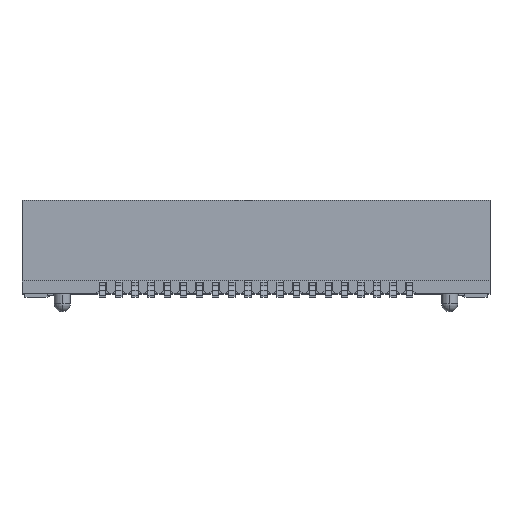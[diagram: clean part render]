
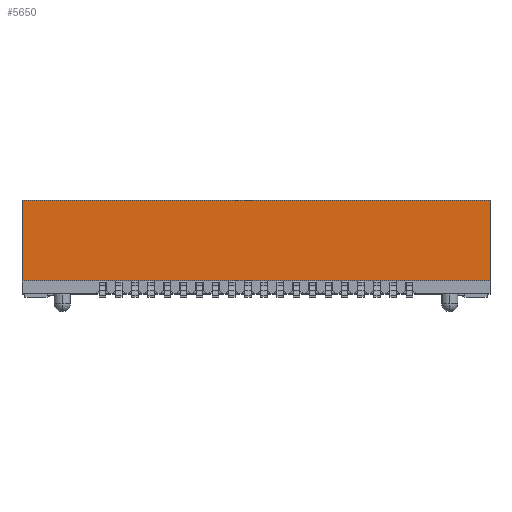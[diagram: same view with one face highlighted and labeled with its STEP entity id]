
A CAD part, top view. The second image highlights one B-rep face of the part: STEP entity #5650.
In plain terms, the highlighted planar face has unit normal (0, 0, 1).
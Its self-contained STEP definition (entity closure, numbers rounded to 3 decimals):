
#631 = CARTESIAN_POINT ( 'NONE',  ( 7.25, 0.4, 2.4 ) ) ;
#1157 = LINE ( 'NONE', #32072, #21483 ) ;
#1766 = ORIENTED_EDGE ( 'NONE', *, *, #14484, .T. ) ;
#3947 = CARTESIAN_POINT ( 'NONE',  ( -7.25, 0.4, 2.4 ) ) ;
#5085 = AXIS2_PLACEMENT_3D ( 'NONE', #23970, #13883, #31677 ) ;
#5234 = LINE ( 'NONE', #13889, #12045 ) ;
#5650 = ADVANCED_FACE ( 'NONE', ( #29049 ), #29110, .F. ) ;
#6177 = DIRECTION ( 'NONE',  ( -1., 0., 0. ) ) ;
#7677 = ORIENTED_EDGE ( 'NONE', *, *, #28158, .T. ) ;
#7708 = VERTEX_POINT ( 'NONE', #631 ) ;
#9335 = VECTOR ( 'NONE', #6177, 1000. ) ;
#11214 = EDGE_LOOP ( 'NONE', ( #1766, #16393, #19209, #7677 ) ) ;
#12045 = VECTOR ( 'NONE', #26556, 1000. ) ;
#13883 = DIRECTION ( 'NONE',  ( 0., 0., -1. ) ) ;
#13889 = CARTESIAN_POINT ( 'NONE',  ( 7.25, 2.9, 2.4 ) ) ;
#14462 = VERTEX_POINT ( 'NONE', #26841 ) ;
#14484 = EDGE_CURVE ( 'NONE', #14462, #28216, #1157, .T. ) ;
#15315 = LINE ( 'NONE', #24085, #9335 ) ;
#16393 = ORIENTED_EDGE ( 'NONE', *, *, #31250, .F. ) ;
#16821 = DIRECTION ( 'NONE',  ( 0., -1., 0. ) ) ;
#19209 = ORIENTED_EDGE ( 'NONE', *, *, #19867, .F. ) ;
#19867 = EDGE_CURVE ( 'NONE', #26663, #7708, #32370, .T. ) ;
#20891 = CARTESIAN_POINT ( 'NONE',  ( 7.25, 2.9, 2.4 ) ) ;
#21483 = VECTOR ( 'NONE', #16821, 1000. ) ;
#23425 = DIRECTION ( 'NONE',  ( 0., -1., 0. ) ) ;
#23970 = CARTESIAN_POINT ( 'NONE',  ( 7.25, 2.9, 2.4 ) ) ;
#24085 = CARTESIAN_POINT ( 'NONE',  ( 7.25, 0.4, 2.4 ) ) ;
#24490 = CARTESIAN_POINT ( 'NONE',  ( 7.25, 2.9, 2.4 ) ) ;
#24760 = VECTOR ( 'NONE', #23425, 1000. ) ;
#26556 = DIRECTION ( 'NONE',  ( -1., 0., 0. ) ) ;
#26663 = VERTEX_POINT ( 'NONE', #24490 ) ;
#26841 = CARTESIAN_POINT ( 'NONE',  ( -7.25, 2.9, 2.4 ) ) ;
#28158 = EDGE_CURVE ( 'NONE', #26663, #14462, #5234, .T. ) ;
#28216 = VERTEX_POINT ( 'NONE', #3947 ) ;
#29049 = FACE_OUTER_BOUND ( 'NONE', #11214, .T. ) ;
#29110 = PLANE ( 'NONE',  #5085 ) ;
#31250 = EDGE_CURVE ( 'NONE', #7708, #28216, #15315, .T. ) ;
#31677 = DIRECTION ( 'NONE',  ( 0., 1., 0. ) ) ;
#32072 = CARTESIAN_POINT ( 'NONE',  ( -7.25, 2.9, 2.4 ) ) ;
#32370 = LINE ( 'NONE', #20891, #24760 ) ;
